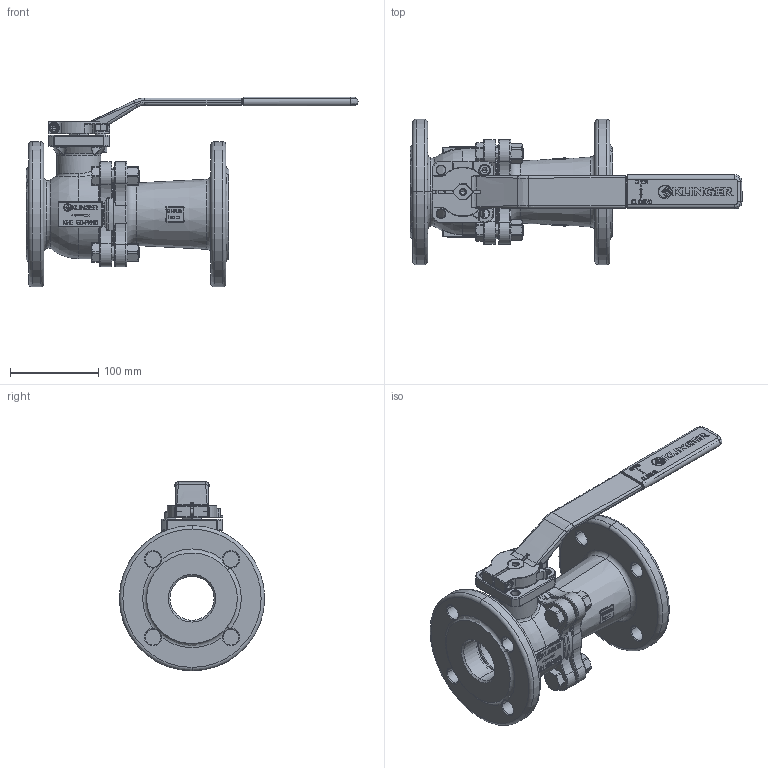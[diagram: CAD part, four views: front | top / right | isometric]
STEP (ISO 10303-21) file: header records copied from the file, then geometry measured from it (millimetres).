
FILE_DESCRIPTION((''),'2;1');
FILE_NAME('KHEFK050VFL050P040PKK','2015-08-10T',('mahrhauserh'),('RAND'),'PRO/ENGINEER BY PARAMETRIC TECHNOLOGY CORPORATION, 2013410','PRO/ENGINEER BY PARAMETRIC TECHNOLOGY CORPORATION, 2013410','');
FILE_SCHEMA(('CONFIG_CONTROL_DESIGN'));
Products named in the file (1): KHEFK050VFL050P040PKK
Bounding box: 377 x 165 x 215.55 mm (x, y, z)
Volume: 1731962.7 mm3; surface area: 345122.3 mm2
Topology: 1 solids, 2 shells, 3374 faces, 8853 edges, 5595 vertices
Faces by surface type: plane 2012, cylinder 492, torus 316, bspline 306, cone 211, sphere 37
Entity records: 131727 total; most frequent: CARTESIAN_POINT 49993, ORIENTED_EDGE 17690, DIRECTION 16125, EDGE_CURVE 8845, VECTOR 5863, LINE 5863, VERTEX_POINT 5595, AXIS2_PLACEMENT_3D 5131
